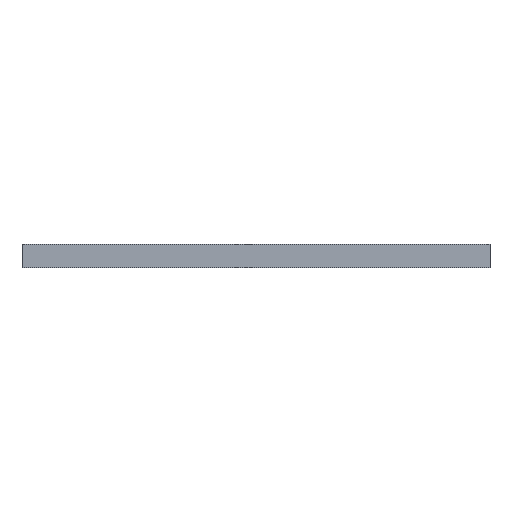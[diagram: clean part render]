
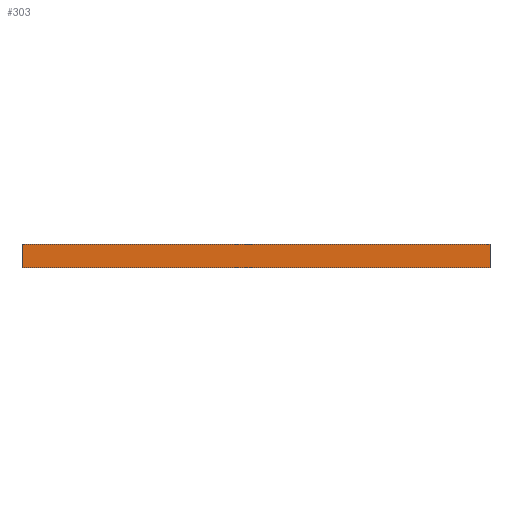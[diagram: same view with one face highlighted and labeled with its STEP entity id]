
A CAD part, front view. The second image highlights one B-rep face of the part: STEP entity #303.
In plain terms, the highlighted planar face has unit normal (0, -1, 0).
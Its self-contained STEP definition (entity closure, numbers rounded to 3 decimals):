
#9 = AXIS2_PLACEMENT_3D ( 'NONE', #177, #81, #123 ) ;
#39 = VECTOR ( 'NONE', #181, 1000. ) ;
#66 = VERTEX_POINT ( 'NONE', #477 ) ;
#80 = EDGE_CURVE ( 'NONE', #108, #265, #593, .T. ) ;
#81 = DIRECTION ( 'NONE',  ( 0., 1., 0. ) ) ;
#102 = LINE ( 'NONE', #547, #39 ) ;
#108 = VERTEX_POINT ( 'NONE', #323 ) ;
#123 = DIRECTION ( 'NONE',  ( 0., 0., 1. ) ) ;
#130 = ORIENTED_EDGE ( 'NONE', *, *, #668, .T. ) ;
#137 = VERTEX_POINT ( 'NONE', #161 ) ;
#161 = CARTESIAN_POINT ( 'NONE',  ( 0., 0., 2. ) ) ;
#177 = CARTESIAN_POINT ( 'NONE',  ( 0., 0., 2. ) ) ;
#181 = DIRECTION ( 'NONE',  ( 1., 0., 0. ) ) ;
#219 = LINE ( 'NONE', #510, #598 ) ;
#265 = VERTEX_POINT ( 'NONE', #663 ) ;
#286 = VECTOR ( 'NONE', #447, 1000. ) ;
#291 = EDGE_CURVE ( 'NONE', #137, #108, #102, .T. ) ;
#303 = ADVANCED_FACE ( 'NONE', ( #475 ), #393, .F. ) ;
#316 = ORIENTED_EDGE ( 'NONE', *, *, #291, .F. ) ;
#321 = EDGE_CURVE ( 'NONE', #66, #265, #481, .T. ) ;
#322 = DIRECTION ( 'NONE',  ( 0., 0., -1. ) ) ;
#323 = CARTESIAN_POINT ( 'NONE',  ( 40., 0., 2. ) ) ;
#364 = DIRECTION ( 'NONE',  ( 0., 0., -1. ) ) ;
#393 = PLANE ( 'NONE',  #9 ) ;
#427 = CARTESIAN_POINT ( 'NONE',  ( 40., 0., 2. ) ) ;
#428 = ORIENTED_EDGE ( 'NONE', *, *, #80, .F. ) ;
#447 = DIRECTION ( 'NONE',  ( 1., 0., 0. ) ) ;
#475 = FACE_OUTER_BOUND ( 'NONE', #695, .T. ) ;
#477 = CARTESIAN_POINT ( 'NONE',  ( 0., 0., 0. ) ) ;
#481 = LINE ( 'NONE', #670, #286 ) ;
#490 = VECTOR ( 'NONE', #322, 1000. ) ;
#500 = ORIENTED_EDGE ( 'NONE', *, *, #321, .T. ) ;
#510 = CARTESIAN_POINT ( 'NONE',  ( 0., 0., 2. ) ) ;
#547 = CARTESIAN_POINT ( 'NONE',  ( 0., 0., 2. ) ) ;
#593 = LINE ( 'NONE', #427, #490 ) ;
#598 = VECTOR ( 'NONE', #364, 1000. ) ;
#663 = CARTESIAN_POINT ( 'NONE',  ( 40., 0., 0. ) ) ;
#668 = EDGE_CURVE ( 'NONE', #137, #66, #219, .T. ) ;
#670 = CARTESIAN_POINT ( 'NONE',  ( 0., 0., 0. ) ) ;
#695 = EDGE_LOOP ( 'NONE', ( #500, #428, #316, #130 ) ) ;
